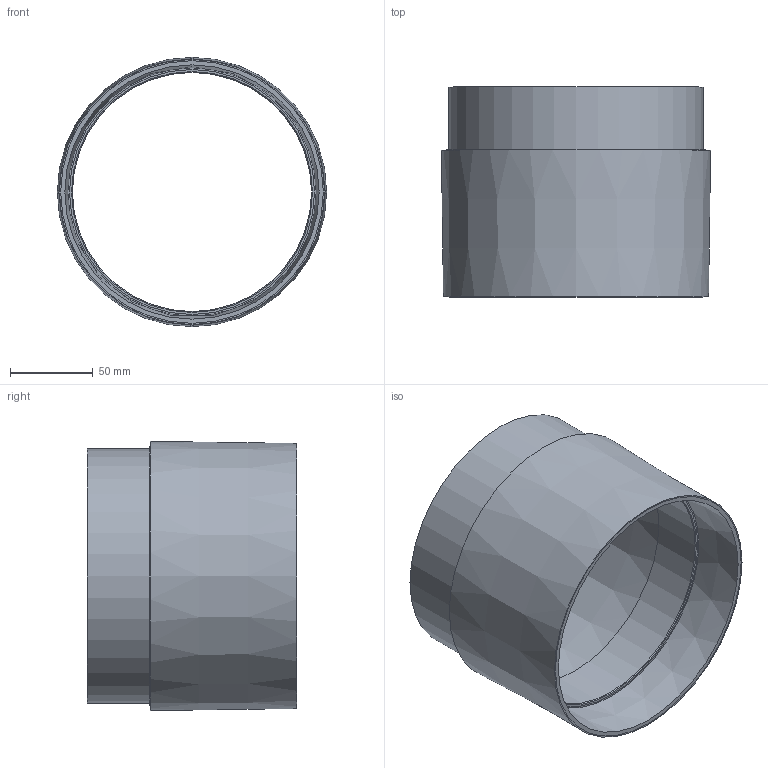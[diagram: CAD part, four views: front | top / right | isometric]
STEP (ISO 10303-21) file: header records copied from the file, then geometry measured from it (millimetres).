
FILE_DESCRIPTION(/* description */ (''),/* implementation_level */ '2;1');
FILE_NAME(/* name */ 'Six In Blast Gate to Sch35 Pipe Coupler v3.step',/* time_stamp */ '2025-12-18T17:06:50-05:00',/* author */ (''),/* organization */ (''),/* preprocessor_version */ 'ST-DEVELOPER v20.1',/* originating_system */ 'Autodesk Translation Framework v14.21.0.0',/* authorisation */ '');
FILE_SCHEMA (('AUTOMOTIVE_DESIGN { 1 0 10303 214 3 1 1 }'));
Length unit declared in the file: inch
Products named in the file (1): Six In Blast Gate to Sch35 Pipe Coupler v3
Bounding box: 162.91 x 127.02 x 162.91 mm (x, y, z)
Volume: 352000.2 mm3; surface area: 128420.4 mm2
Topology: 1 solids, 1 shells, 14 faces, 27 edges, 16 vertices
Faces by surface type: cone 9, plane 3, cylinder 2
Full cylindrical faces by diameter (mm): 144.729 x1, 153.822 x1
Entity records: 398 total; most frequent: DIRECTION 73, CARTESIAN_POINT 58, ORIENTED_EDGE 54, AXIS2_PLACEMENT_3D 31, EDGE_CURVE 27, EDGE_LOOP 17, CIRCLE 16, VERTEX_POINT 16
